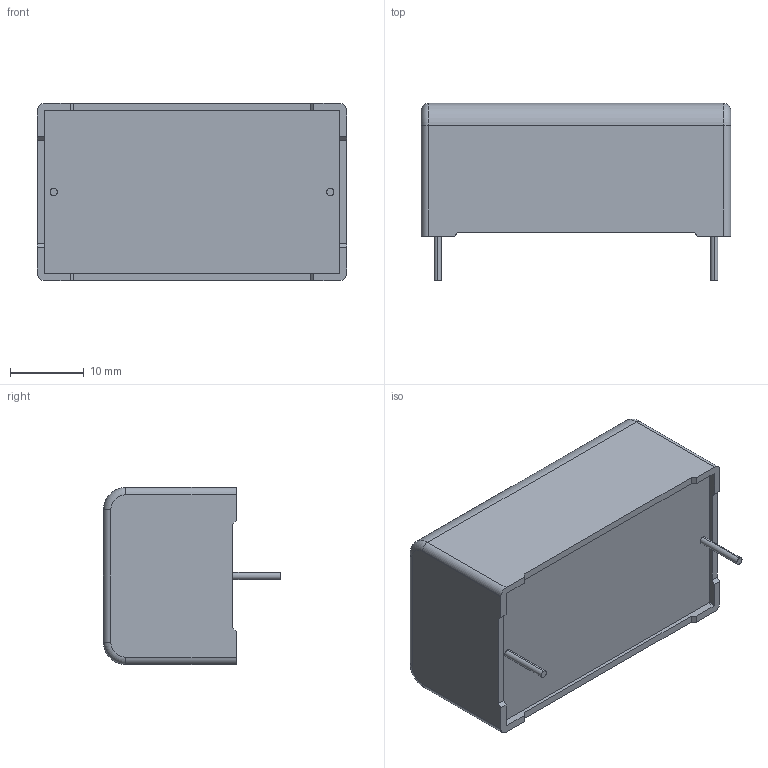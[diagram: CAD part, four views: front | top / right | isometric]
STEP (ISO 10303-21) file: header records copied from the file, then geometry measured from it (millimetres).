
FILE_DESCRIPTION (( 'STEP AP203' ), '1' );
FILE_NAME ('DC_Link_24x18x42_2pins.step', '2017-04-03T15:59:53', ( 'work' ), ( 'Hewlett-Packard Company' ), 'SwSTEP 2.0', 'SolidWorks 2017', '' );
FILE_SCHEMA (( 'CONFIG_CONTROL_DESIGN' ));
Length unit declared in the file: millimetre
Products named in the file (1): DC_Link_24x18x42_2pins
Bounding box: 42 x 24 x 24 mm (x, y, z)
Volume: 17041.4 mm3; surface area: 4301.1 mm2
Topology: 1 solids, 1 shells, 116 faces, 307 edges, 202 vertices
Faces by surface type: plane 80, cylinder 16, bspline 16, torus 4
Entity records: 4332 total; most frequent: CARTESIAN_POINT 1450, ORIENTED_EDGE 614, DIRECTION 513, EDGE_CURVE 307, LINE 239, VECTOR 239, VERTEX_POINT 202, AXIS2_PLACEMENT_3D 137
